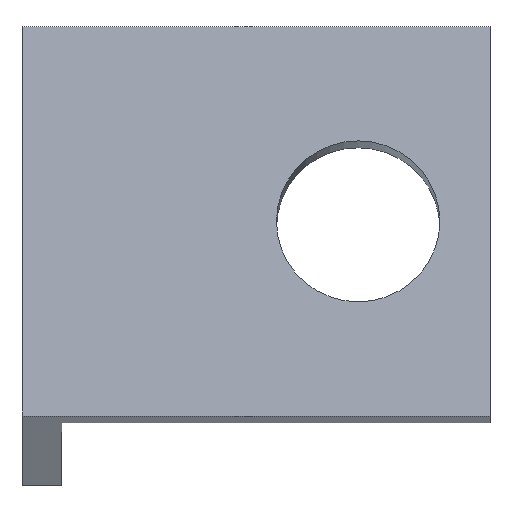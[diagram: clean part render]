
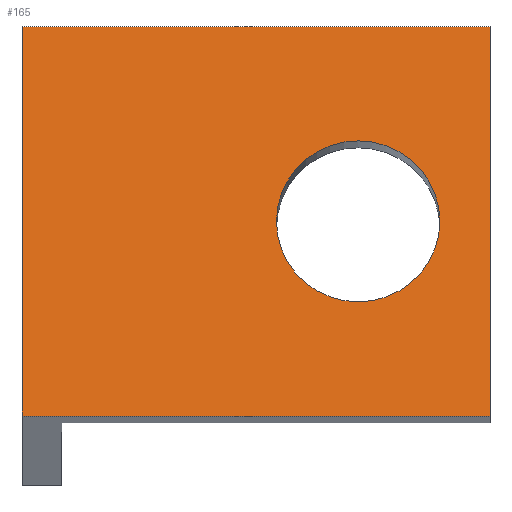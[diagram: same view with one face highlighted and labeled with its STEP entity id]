
A CAD part, top view. The second image highlights one B-rep face of the part: STEP entity #165.
In plain terms, the highlighted planar face has unit normal (0, 0.174, 0.985).
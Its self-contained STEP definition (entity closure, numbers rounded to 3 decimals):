
#115=CARTESIAN_POINT('',(-275.,-177.489,298.651));
#116=DIRECTION('',(0.0,0.174,0.985));
#117=DIRECTION('',(-1.0,0.0,0.0));
#118=AXIS2_PLACEMENT_3D('',#115,#116,#117);
#119=PLANE('',#118);
#120=CARTESIAN_POINT('',(-278.,-177.489,298.651));
#121=VERTEX_POINT('',#120);
#122=CARTESIAN_POINT('',(-278.,-207.033,303.861));
#123=VERTEX_POINT('',#122);
#124=CARTESIAN_POINT('',(-278.,-177.489,298.651));
#125=DIRECTION('',(0.0,-0.985,0.174));
#126=VECTOR('',#125,1.);
#127=LINE('',#124,#126);
#128=EDGE_CURVE('',#121,#123,#127,.T.);
#129=ORIENTED_EDGE('',*,*,#128,.T.);
#130=CARTESIAN_POINT('',(-242.5,-207.033,303.861));
#131=VERTEX_POINT('',#130);
#132=CARTESIAN_POINT('',(-278.,-207.033,303.861));
#133=DIRECTION('',(1.0,0.0,0.0));
#134=VECTOR('',#133,1.);
#135=LINE('',#132,#134);
#136=EDGE_CURVE('',#123,#131,#135,.T.);
#137=ORIENTED_EDGE('',*,*,#136,.T.);
#138=CARTESIAN_POINT('',(-242.5,-177.489,298.651));
#139=VERTEX_POINT('',#138);
#140=CARTESIAN_POINT('',(-242.5,-177.489,298.651));
#141=DIRECTION('',(0.0,-0.985,0.174));
#142=VECTOR('',#141,1.);
#143=LINE('',#140,#142);
#144=EDGE_CURVE('',#139,#131,#143,.T.);
#145=ORIENTED_EDGE('',*,*,#144,.F.);
#146=CARTESIAN_POINT('',(-278.,-177.489,298.651));
#147=DIRECTION('',(1.0,0.0,0.0));
#148=VECTOR('',#147,1.);
#149=LINE('',#146,#148);
#150=EDGE_CURVE('',#121,#139,#149,.T.);
#151=ORIENTED_EDGE('',*,*,#150,.F.);
#152=EDGE_LOOP('',(#129,#137,#145,#151));
#153=FACE_OUTER_BOUND('',#152,.T.);
#154=CARTESIAN_POINT('',(-246.3,-192.261,301.256));
#155=VERTEX_POINT('',#154);
#156=CARTESIAN_POINT('',(-252.5,-192.261,301.256));
#157=DIRECTION('',(0.0,-0.174,-0.985));
#158=DIRECTION('',(1.0,0.0,0.0));
#159=AXIS2_PLACEMENT_3D('',#156,#157,#158);
#160=CIRCLE('',#159,6.2);
#161=EDGE_CURVE('',#155,#155,#160,.T.);
#162=ORIENTED_EDGE('',*,*,#161,.T.);
#163=EDGE_LOOP('',(#162));
#164=FACE_BOUND('',#163,.T.);
#165=ADVANCED_FACE('',(#153,#164),#119,.T.);
